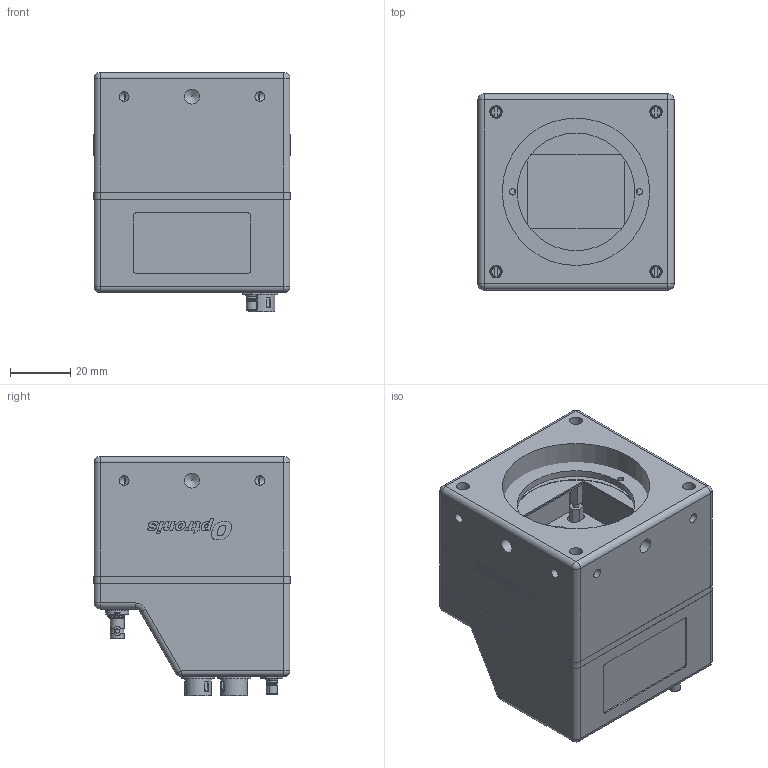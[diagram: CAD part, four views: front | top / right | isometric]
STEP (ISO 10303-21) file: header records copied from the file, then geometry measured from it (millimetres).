
FILE_DESCRIPTION(/* description */ ('Cyclone'),/* implementation_level */ '2;1');
FILE_NAME(/* name */ 'C:\Optronis\Inv\1200 Cyclone\1200-MG-14_Mono.stp',/* time_stamp */ '2022-02-08T07:38:51+01:00',/* author */ ('aba'),/* organization */ (''),/* preprocessor_version */ 'ST-DEVELOPER v18.1',/* originating_system */ 'Autodesk Inventor 2022',/* authorisation */ '');
FILE_SCHEMA (('CONFIG_CONTROL_DESIGN'));
Products named in the file (26): 1200-MG-14; 1200-ED-02-A; 34-1028; 34-1028_Mutter; 1200-ED-03-D; Lumex LPA-C041301S-10; 1200-MD-02-C; 1200-MD-03-A; 1200-MD-04; 1200-MD-05-A; 1200-MD-31; 1200-MD-34; 1200-MD-38; 1200-MD-40; Hirose HR10A-7R-4S; Hirose HR10A-7R-6S; HRS10-7R-6S Mutter; 903-406j-51r_rev-a; Abstandsbolzen G-G 2,5x9; Abstandsbolzen G-S 2,5x10; Misumi CBSTSE2-4; 84 M2x6; 912M2,5x8; 912M2,5x18; 920 M2,5x12; 6798 M2
Assembly tree (53 placements, depth 3):
  1200-MG-14
    1200-ED-02-A
      34-1028  x4
      34-1028_Mutter  x4
    1200-ED-03-D
      Lumex LPA-C041301S-10
    1200-MD-02-C
    1200-MD-03-A
    1200-MD-04  x2
    1200-MD-05-A
    1200-MD-31
    1200-MD-34
    1200-MD-38
    1200-MD-40
    Hirose HR10A-7R-4S
    Hirose HR10A-7R-6S
    HRS10-7R-6S Mutter  x2
    903-406j-51r_rev-a
    Abstandsbolzen G-G 2,5x9  x4
    Abstandsbolzen G-S 2,5x10  x6
    Misumi CBSTSE2-4  x2
    84 M2x6  x4
    912M2,5x8  x2
    912M2,5x18  x2
    920 M2,5x12  x4
    6798 M2  x4
Bounding box: 65.1 x 65.1 x 79.3 mm (x, y, z)
Volume: 89755.9 mm3; surface area: 76268.2 mm2
Topology: 46 solids, 159 shells, 2913 faces, 7927 edges, 5367 vertices
Faces by surface type: plane 1604, cylinder 655, bspline 426, cone 154, torus 64, sphere 10
Full cylindrical faces by diameter (mm): 0.45 x4, 0.46 x4, 0.51 x4, 0.61 x8, 0.8 x20, 1 x2, 1.1 x12, 1.25 x4, 1.4 x8, 1.567 x8, 1.68 x4, 2 x6, 2.013 x10, 2.1 x2, 2.2 x2, 2.5 x14, 2.7 x8, 2.8 x4, 3 x4, 3.05 x4, 3.242 x8, 3.5 x4, 3.59 x4, 3.6 x8, 3.962 x1, 4 x6, 4.134 x4, 4.5 x8, 4.55 x8, 4.978 x4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
Entity records: 93229 total; most frequent: CARTESIAN_POINT 39789, ORIENTED_EDGE 10829, DIRECTION 9271, EDGE_CURVE 5616, VERTEX_POINT 3853, LINE 3495, VECTOR 3495, AXIS2_PLACEMENT_3D 2888
